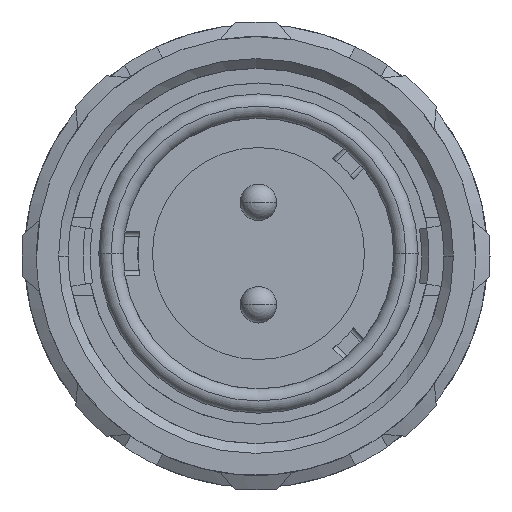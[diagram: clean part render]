
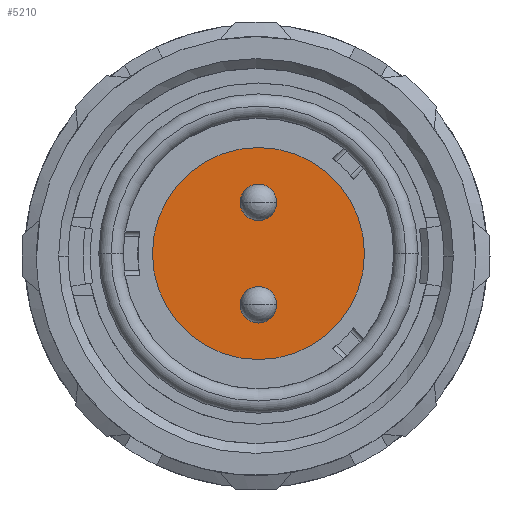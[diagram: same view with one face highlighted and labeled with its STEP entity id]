
A CAD part, left-side view. The second image highlights one B-rep face of the part: STEP entity #5210.
In plain terms, the highlighted planar face has unit normal (-1, 0, 0).
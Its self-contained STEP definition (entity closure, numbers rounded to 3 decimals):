
#413=CARTESIAN_POINT('',(29.7,0.,0.));
#414=DIRECTION('',(1.,0.,0.));
#415=DIRECTION('',(0.,1.,0.));
#416=AXIS2_PLACEMENT_3D('',#413,#414,#415);
#418=CARTESIAN_POINT('',(29.7,0.,0.));
#419=DIRECTION('',(1.,0.,0.));
#420=DIRECTION('',(0.,-1.,0.));
#421=AXIS2_PLACEMENT_3D('',#418,#419,#420);
#423=CARTESIAN_POINT('',(29.7,0.,2.1));
#424=DIRECTION('',(-1.,0.,0.));
#425=DIRECTION('',(0.,-1.,0.));
#426=AXIS2_PLACEMENT_3D('',#423,#424,#425);
#428=CARTESIAN_POINT('',(29.7,0.,2.1));
#429=DIRECTION('',(-1.,0.,0.));
#430=DIRECTION('',(0.,1.,0.));
#431=AXIS2_PLACEMENT_3D('',#428,#429,#430);
#433=CARTESIAN_POINT('',(29.7,0.,-2.1));
#434=DIRECTION('',(-1.,0.,0.));
#435=DIRECTION('',(0.,-1.,0.));
#436=AXIS2_PLACEMENT_3D('',#433,#434,#435);
#438=CARTESIAN_POINT('',(29.7,0.,-2.1));
#439=DIRECTION('',(-1.,0.,0.));
#440=DIRECTION('',(0.,1.,0.));
#441=AXIS2_PLACEMENT_3D('',#438,#439,#440);
#4557=CARTESIAN_POINT('',(29.7,4.35,0.));
#4558=CARTESIAN_POINT('',(29.7,-4.35,0.));
#4559=VERTEX_POINT('',#4557);
#4560=VERTEX_POINT('',#4558);
#4645=CARTESIAN_POINT('',(29.7,-0.75,2.1));
#4646=CARTESIAN_POINT('',(29.7,0.75,2.1));
#4647=VERTEX_POINT('',#4645);
#4648=VERTEX_POINT('',#4646);
#4649=CARTESIAN_POINT('',(29.7,-0.75,-2.1));
#4650=CARTESIAN_POINT('',(29.7,0.75,-2.1));
#4651=VERTEX_POINT('',#4649);
#4652=VERTEX_POINT('',#4650);
#5188=CARTESIAN_POINT('',(29.7,0.,0.));
#5189=DIRECTION('',(1.,0.,0.));
#5190=DIRECTION('',(0.,1.,0.));
#5191=AXIS2_PLACEMENT_3D('',#5188,#5189,#5190);
#5192=PLANE('',#5191);
#5193=ORIENTED_EDGE('',*,*,#5178,.T.);
#5195=ORIENTED_EDGE('',*,*,#5194,.T.);
#5196=EDGE_LOOP('',(#5193,#5195));
#5197=FACE_OUTER_BOUND('',#5196,.F.);
#5199=ORIENTED_EDGE('',*,*,#5198,.T.);
#5201=ORIENTED_EDGE('',*,*,#5200,.T.);
#5202=EDGE_LOOP('',(#5199,#5201));
#5203=FACE_BOUND('',#5202,.F.);
#5205=ORIENTED_EDGE('',*,*,#5204,.T.);
#5207=ORIENTED_EDGE('',*,*,#5206,.T.);
#5208=EDGE_LOOP('',(#5205,#5207));
#5209=FACE_BOUND('',#5208,.F.);
#417=CIRCLE('',#416,4.35);
#422=CIRCLE('',#421,4.35);
#427=CIRCLE('',#426,0.75);
#432=CIRCLE('',#431,0.75);
#437=CIRCLE('',#436,0.75);
#442=CIRCLE('',#441,0.75);
#5178=EDGE_CURVE('',#4559,#4560,#417,.T.);
#5194=EDGE_CURVE('',#4560,#4559,#422,.T.);
#5198=EDGE_CURVE('',#4647,#4648,#427,.T.);
#5200=EDGE_CURVE('',#4648,#4647,#432,.T.);
#5204=EDGE_CURVE('',#4651,#4652,#437,.T.);
#5206=EDGE_CURVE('',#4652,#4651,#442,.T.);
#5210=ADVANCED_FACE('',(#5197,#5203,#5209),#5192,.F.);
